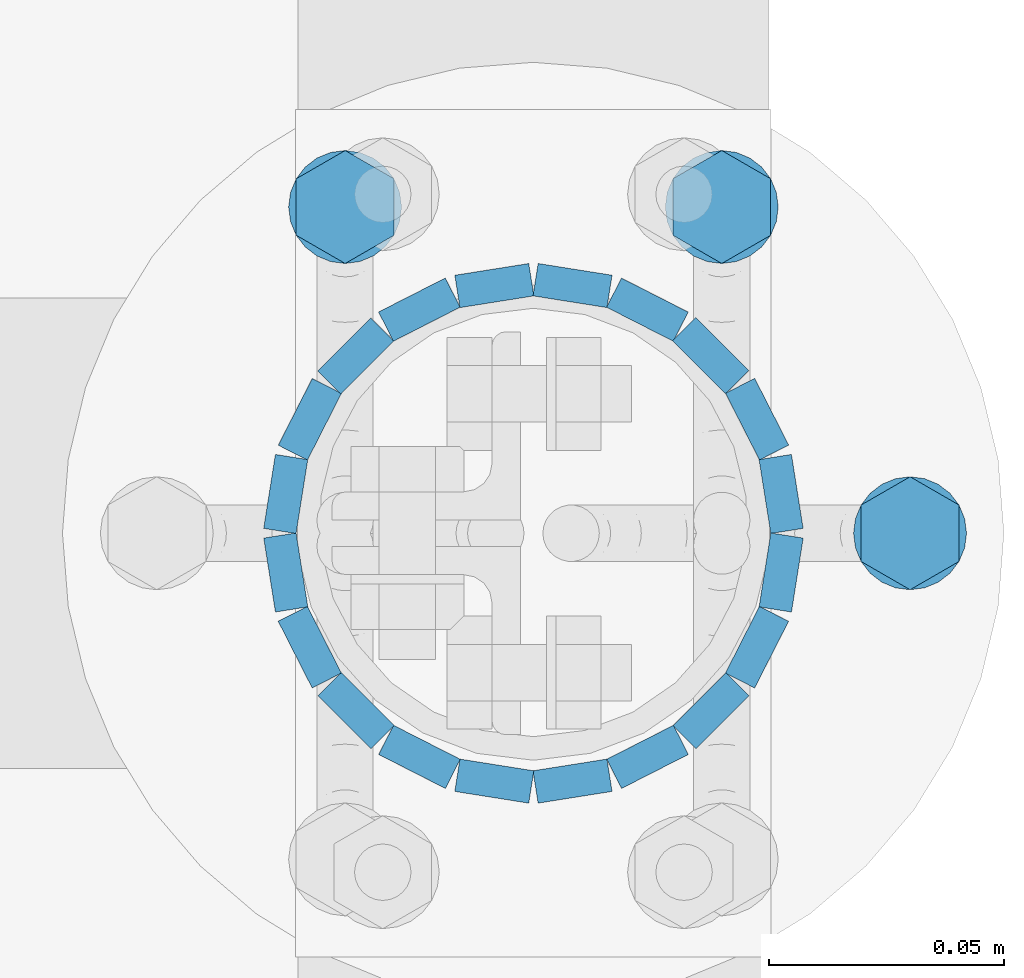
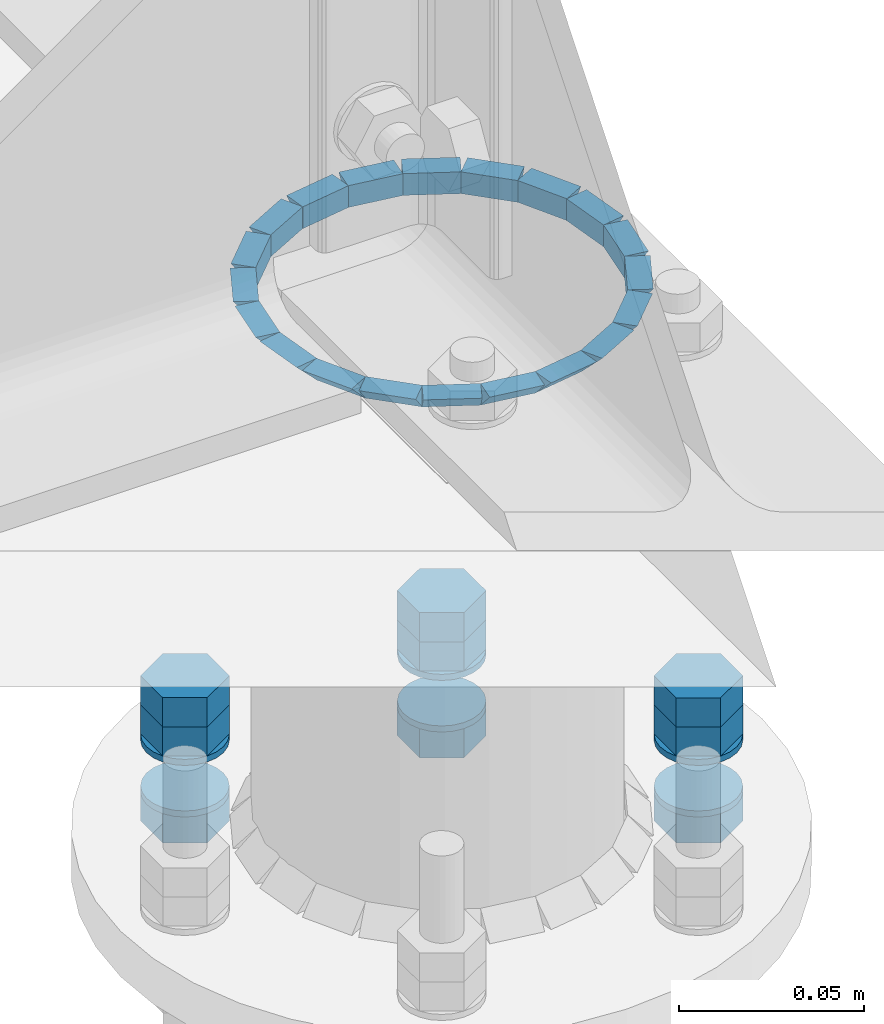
# One storey, part 64 of 84: 40 fasteners, 15 mechanical fasteners.
"""IFC4 building model written with IfcOpenShell, lengths in metres."""

from ifc_helpers import new_model, si_unit, frame, origin_with_axes, place, context, project, spatial, polyline, outline, extrude, type_object, element, save


model = new_model("IFC4")

# Units and contexts
model_context = context("Model", 3, precision=1e-05, world=origin_with_axes())
ifc_project = project(units=[si_unit("LENGTHUNIT", "METRE"), si_unit("AREAUNIT", "SQUARE_METRE"), si_unit("VOLUMEUNIT", "CUBIC_METRE"), si_unit("MASSUNIT", "GRAM", prefix="KILO"), si_unit("TIMEUNIT", "SECOND"), si_unit("PLANEANGLEUNIT", "RADIAN"), si_unit("SOLIDANGLEUNIT", "STERADIAN"), si_unit("THERMODYNAMICTEMPERATUREUNIT", "DEGREE_CELSIUS")], contexts=[model_context])

# Site, building, storey
placement_1 = place(None, origin_with_axes())
site = spatial("IfcSite", under=ifc_project, at=placement_1, Name="Italia", CompositionType="ELEMENT")
building = spatial("IfcBuilding", under=site, at=placement_1, Name="Tettoia", CompositionType="ELEMENT")
storey_placement = place(None, frame((0.0, 0.0, 4.199999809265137), z_axis=(0.0, 0.0, 1.0), x_axis=(1.0, 0.0, 0.0)))
storey = spatial("IfcBuildingStorey", under=building, at=storey_placement, Name="Storey 1", CompositionType="ELEMENT", Elevation=4.199999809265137)

# Mechanical fasteners
mechanical_fastener_type_1 = type_object("IfcMechanicalFastenerType", Name="Collegamento -010_0110", PredefinedType="BOLT")
placement_2 = place(placement_1, origin_with_axes())
mechanical_fastener_1_placement = place(placement_2, origin_with_axes())
element("IfcMechanicalFastener", 1, at=mechanical_fastener_1_placement, inside=storey, type_object=mechanical_fastener_type_1, Name="Collegamento -010_0110", NominalDiameter=0.0119991, context=model_context, shape_type="SweptSolid", body=[
    extrude(outline(polyline([(0.0, 0.0), (-0.0119991, 0.0), (-0.0179996, 0.0103922), (-0.0119991, 0.0207844), (0.0, 0.0207844), (0.00600052, 0.0103922), (0.0, 0.0)])), frame((11.3804, 9.976, 4.017), z_axis=(0.0, 0.0, 1.0), x_axis=(0.0, 1.0, 0.0)), (0.0, 0.0, 1.0), 0.00959969),
])
mechanical_fastener_type_2 = type_object("IfcMechanicalFastenerType", Name="Collegamento -010_0110", PredefinedType="BOLT")
mechanical_fastener_2_placement = place(placement_2, origin_with_axes())
element("IfcMechanicalFastener", 2, at=mechanical_fastener_2_placement, inside=storey, type_object=mechanical_fastener_type_2, Name="Collegamento -010_0110", NominalDiameter=0.0119991, context=model_context, shape_type="SweptSolid", body=[
    extrude(outline(polyline([(0.0, 0.0), (-0.0119991, 0.0), (-0.0179996, 0.0103922), (-0.0119991, 0.0207844), (0.0, 0.0207844), (0.00600052, 0.0103922), (0.0, 0.0)])), frame((11.3804, 9.976, 4.0266), z_axis=(0.0, 0.0, 1.0), x_axis=(0.0, 1.0, 0.0)), (0.0, 0.0, 1.0), 0.00960016),
])
mechanical_fastener_type_3 = type_object("IfcMechanicalFastenerType", Name="Collegamento -010_0110", PredefinedType="BOLT")
mechanical_fastener_3_placement = place(placement_2, origin_with_axes())
element("IfcMechanicalFastener", 3, at=mechanical_fastener_3_placement, inside=storey, type_object=mechanical_fastener_type_3, Name="Collegamento -010_0110", NominalDiameter=0.0119991, context=model_context, shape_type="SweptSolid", body=[
    extrude(outline(polyline([(0.0, 0.0), (-0.0119991, 0.0), (-0.0179996, 0.0103922), (-0.0119991, 0.0207844), (0.0, 0.0207844), (0.00600052, 0.0103922), (0.0, 0.0)])), frame((11.3804, 9.976, 3.9884), z_axis=(0.0, 0.0, 1.0), x_axis=(0.0, 1.0, 0.0)), (0.0, 0.0, 1.0), 0.00959992),
])
mechanical_fastener_type_4 = type_object("IfcMechanicalFastenerType", Name="Collegamento -010_0110", PredefinedType="BOLT")
mechanical_fastener_4_placement = place(placement_2, origin_with_axes())
element("IfcMechanicalFastener", 4, at=mechanical_fastener_4_placement, inside=storey, type_object=mechanical_fastener_type_4, Name="Collegamento -010_0110", NominalDiameter=0.024, context=model_context, shape_type="SweptSolid", body=[
    extrude(outline(polyline([(0.0, 0.0), (-0.000409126, -0.00310612), (-0.00160789, -0.00599957), (-0.00351524, -0.00848484), (-0.00600052, -0.0103922), (-0.00889397, -0.011591), (-0.0120001, -0.0120001), (-0.0151062, -0.011591), (-0.0179996, -0.0103922), (-0.0204849, -0.00848484), (-0.0223923, -0.00599957), (-0.023591, -0.00310612), (-0.0240002, 0.0), (-0.023591, 0.00310612), (-0.0223923, 0.00599957), (-0.0204849, 0.00848484), (-0.0179996, 0.0103922), (-0.0151062, 0.011591), (-0.0120001, 0.0120001), (-0.00889397, 0.011591), (-0.00600052, 0.0103922), (-0.00351524, 0.00848484), (-0.00160789, 0.00599957), (-0.000409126, 0.00310612), (0.0, 0.0)])), frame((11.37, 9.982, 4.015), z_axis=(0.0, 0.0, 1.0), x_axis=(0.0, 1.0, 0.0)), (0.0, 0.0, 1.0), 0.00200033),
])
mechanical_fastener_type_5 = type_object("IfcMechanicalFastenerType", Name="Collegamento -010_0110", PredefinedType="BOLT")
mechanical_fastener_5_placement = place(placement_2, origin_with_axes())
element("IfcMechanicalFastener", 5, at=mechanical_fastener_5_placement, inside=storey, type_object=mechanical_fastener_type_5, Name="Collegamento -010_0110", NominalDiameter=0.024, context=model_context, shape_type="SweptSolid", body=[
    extrude(outline(polyline([(0.0, 0.0), (-0.000409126, -0.00310612), (-0.00160789, -0.00599957), (-0.00351524, -0.00848484), (-0.00600052, -0.0103922), (-0.00889397, -0.011591), (-0.0120001, -0.0120001), (-0.0151062, -0.011591), (-0.0179996, -0.0103922), (-0.0204849, -0.00848484), (-0.0223923, -0.00599957), (-0.023591, -0.00310612), (-0.0240002, 0.0), (-0.023591, 0.00310612), (-0.0223923, 0.00599957), (-0.0204849, 0.00848484), (-0.0179996, 0.0103922), (-0.0151062, 0.011591), (-0.0120001, 0.0120001), (-0.00889397, 0.011591), (-0.00600052, 0.0103922), (-0.00351524, 0.00848484), (-0.00160789, 0.00599957), (-0.000409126, 0.00310612), (0.0, 0.0)])), frame((11.37, 9.982, 3.998), z_axis=(0.0, 0.0, 1.0), x_axis=(0.0, 1.0, 0.0)), (0.0, 0.0, 1.0), 0.00200009),
])
mechanical_fastener_type_6 = type_object("IfcMechanicalFastenerType", Name="Collegamento -010_0110", PredefinedType="BOLT")
mechanical_fastener_6_placement = place(placement_2, origin_with_axes())
element("IfcMechanicalFastener", 6, at=mechanical_fastener_6_placement, inside=storey, type_object=mechanical_fastener_type_6, Name="Collegamento -010_0110", NominalDiameter=0.0119997, context=model_context, shape_type="SweptSolid", body=[
    extrude(outline(polyline([(0.0, 0.0), (-0.0120001, 0.0), (-0.0179996, 0.0103922), (-0.0120001, 0.0207844), (0.0, 0.0207844), (0.00599957, 0.0103922), (0.0, 0.0)])), frame((11.3404, 10.0453, 4.017), z_axis=(0.0, 0.0, 1.0), x_axis=(0.0, 1.0, 0.0)), (0.0, 0.0, 1.0), 0.00959969),
])
mechanical_fastener_type_7 = type_object("IfcMechanicalFastenerType", Name="Collegamento -010_0110", PredefinedType="BOLT")
mechanical_fastener_7_placement = place(placement_2, origin_with_axes())
element("IfcMechanicalFastener", 7, at=mechanical_fastener_7_placement, inside=storey, type_object=mechanical_fastener_type_7, Name="Collegamento -010_0110", NominalDiameter=0.0119997, context=model_context, shape_type="SweptSolid", body=[
    extrude(outline(polyline([(0.0, 0.0), (-0.0120001, 0.0), (-0.0179996, 0.0103922), (-0.0120001, 0.0207844), (0.0, 0.0207844), (0.00599957, 0.0103922), (0.0, 0.0)])), frame((11.3404, 10.0453, 4.0266), z_axis=(0.0, 0.0, 1.0), x_axis=(0.0, 1.0, 0.0)), (0.0, 0.0, 1.0), 0.00960016),
])
mechanical_fastener_type_8 = type_object("IfcMechanicalFastenerType", Name="Collegamento -010_0110", PredefinedType="BOLT")
mechanical_fastener_8_placement = place(placement_2, origin_with_axes())
element("IfcMechanicalFastener", 8, at=mechanical_fastener_8_placement, inside=storey, type_object=mechanical_fastener_type_8, Name="Collegamento -010_0110", NominalDiameter=0.0119997, context=model_context, shape_type="SweptSolid", body=[
    extrude(outline(polyline([(0.0, 0.0), (-0.0120001, 0.0), (-0.0179996, 0.0103922), (-0.0120001, 0.0207844), (0.0, 0.0207844), (0.00599957, 0.0103922), (0.0, 0.0)])), frame((11.3404, 10.0453, 3.9884), z_axis=(0.0, 0.0, 1.0), x_axis=(0.0, 1.0, 0.0)), (0.0, 0.0, 1.0), 0.00959992),
])
mechanical_fastener_type_9 = type_object("IfcMechanicalFastenerType", Name="Collegamento -010_0110", PredefinedType="BOLT")
mechanical_fastener_9_placement = place(placement_2, origin_with_axes())
element("IfcMechanicalFastener", 9, at=mechanical_fastener_9_placement, inside=storey, type_object=mechanical_fastener_type_9, Name="Collegamento -010_0110", NominalDiameter=0.024, context=model_context, shape_type="SweptSolid", body=[
    extrude(outline(polyline([(0.0, 0.0), (-0.000409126, -0.00310612), (-0.00160789, -0.00599957), (-0.00351524, -0.00848484), (-0.00600052, -0.0103922), (-0.00889397, -0.011591), (-0.0120001, -0.0120001), (-0.0151062, -0.011591), (-0.0179996, -0.0103922), (-0.0204849, -0.00848484), (-0.0223923, -0.00599957), (-0.023591, -0.00310612), (-0.0240002, 0.0), (-0.023591, 0.00310612), (-0.0223923, 0.00599957), (-0.0204849, 0.00848484), (-0.0179996, 0.0103922), (-0.0151062, 0.011591), (-0.0120001, 0.0120001), (-0.00889397, 0.011591), (-0.00600052, 0.0103922), (-0.00351524, 0.00848484), (-0.00160789, 0.00599957), (-0.000409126, 0.00310612), (0.0, 0.0)])), frame((11.33, 10.0513, 4.015), z_axis=(0.0, 0.0, 1.0), x_axis=(0.0, 1.0, 0.0)), (0.0, 0.0, 1.0), 0.00200033),
])
mechanical_fastener_type_10 = type_object("IfcMechanicalFastenerType", Name="Collegamento -010_0110", PredefinedType="BOLT")
mechanical_fastener_10_placement = place(placement_2, origin_with_axes())
element("IfcMechanicalFastener", 10, at=mechanical_fastener_10_placement, inside=storey, type_object=mechanical_fastener_type_10, Name="Collegamento -010_0110", NominalDiameter=0.024, context=model_context, shape_type="SweptSolid", body=[
    extrude(outline(polyline([(0.0, 0.0), (-0.000409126, -0.00310612), (-0.00160789, -0.00599957), (-0.00351524, -0.00848484), (-0.00600052, -0.0103922), (-0.00889397, -0.011591), (-0.0120001, -0.0120001), (-0.0151062, -0.011591), (-0.0179996, -0.0103922), (-0.0204849, -0.00848484), (-0.0223923, -0.00599957), (-0.023591, -0.00310612), (-0.0240002, 0.0), (-0.023591, 0.00310612), (-0.0223923, 0.00599957), (-0.0204849, 0.00848484), (-0.0179996, 0.0103922), (-0.0151062, 0.011591), (-0.0120001, 0.0120001), (-0.00889397, 0.011591), (-0.00600052, 0.0103922), (-0.00351524, 0.00848484), (-0.00160789, 0.00599957), (-0.000409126, 0.00310612), (0.0, 0.0)])), frame((11.33, 10.0513, 3.998), z_axis=(0.0, 0.0, 1.0), x_axis=(0.0, 1.0, 0.0)), (0.0, 0.0, 1.0), 0.00200009),
])
mechanical_fastener_type_11 = type_object("IfcMechanicalFastenerType", Name="Collegamento -010_0110", PredefinedType="BOLT")
mechanical_fastener_11_placement = place(placement_2, origin_with_axes())
element("IfcMechanicalFastener", 11, at=mechanical_fastener_11_placement, inside=storey, type_object=mechanical_fastener_type_11, Name="Collegamento -010_0110", NominalDiameter=0.0119997, context=model_context, shape_type="SweptSolid", body=[
    extrude(outline(polyline([(0.0, 0.0), (-0.0120001, 0.0), (-0.0179996, 0.0103922), (-0.0120001, 0.0207844), (0.0, 0.0207844), (0.00599957, 0.0103922), (0.0, 0.0)])), frame((11.2604, 10.0453, 4.017), z_axis=(0.0, 0.0, 1.0), x_axis=(0.0, 1.0, 0.0)), (0.0, 0.0, 1.0), 0.00959969),
])
mechanical_fastener_type_12 = type_object("IfcMechanicalFastenerType", Name="Collegamento -010_0110", PredefinedType="BOLT")
mechanical_fastener_12_placement = place(placement_2, origin_with_axes())
element("IfcMechanicalFastener", 12, at=mechanical_fastener_12_placement, inside=storey, type_object=mechanical_fastener_type_12, Name="Collegamento -010_0110", NominalDiameter=0.0119997, context=model_context, shape_type="SweptSolid", body=[
    extrude(outline(polyline([(0.0, 0.0), (-0.0120001, 0.0), (-0.0179996, 0.0103922), (-0.0120001, 0.0207844), (0.0, 0.0207844), (0.00599957, 0.0103922), (0.0, 0.0)])), frame((11.2604, 10.0453, 4.0266), z_axis=(0.0, 0.0, 1.0), x_axis=(0.0, 1.0, 0.0)), (0.0, 0.0, 1.0), 0.00960016),
])
mechanical_fastener_type_13 = type_object("IfcMechanicalFastenerType", Name="Collegamento -010_0110", PredefinedType="BOLT")
mechanical_fastener_13_placement = place(placement_2, origin_with_axes())
element("IfcMechanicalFastener", 13, at=mechanical_fastener_13_placement, inside=storey, type_object=mechanical_fastener_type_13, Name="Collegamento -010_0110", NominalDiameter=0.0119997, context=model_context, shape_type="SweptSolid", body=[
    extrude(outline(polyline([(0.0, 0.0), (-0.0120001, 0.0), (-0.0179996, 0.0103922), (-0.0120001, 0.0207844), (0.0, 0.0207844), (0.00599957, 0.0103922), (0.0, 0.0)])), frame((11.2604, 10.0453, 3.9884), z_axis=(0.0, 0.0, 1.0), x_axis=(0.0, 1.0, 0.0)), (0.0, 0.0, 1.0), 0.00959992),
])
mechanical_fastener_type_14 = type_object("IfcMechanicalFastenerType", Name="Collegamento -010_0110", PredefinedType="BOLT")
mechanical_fastener_14_placement = place(placement_2, origin_with_axes())
element("IfcMechanicalFastener", 14, at=mechanical_fastener_14_placement, inside=storey, type_object=mechanical_fastener_type_14, Name="Collegamento -010_0110", NominalDiameter=0.024, context=model_context, shape_type="SweptSolid", body=[
    extrude(outline(polyline([(0.0, 0.0), (-0.000409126, -0.00310612), (-0.00160789, -0.00599957), (-0.00351524, -0.00848484), (-0.00600052, -0.0103922), (-0.00889397, -0.011591), (-0.0120001, -0.0120001), (-0.0151062, -0.011591), (-0.0179996, -0.0103922), (-0.0204849, -0.00848484), (-0.0223923, -0.00599957), (-0.023591, -0.00310612), (-0.0240002, 0.0), (-0.023591, 0.00310612), (-0.0223923, 0.00599957), (-0.0204849, 0.00848484), (-0.0179996, 0.0103922), (-0.0151062, 0.011591), (-0.0120001, 0.0120001), (-0.00889397, 0.011591), (-0.00600052, 0.0103922), (-0.00351524, 0.00848484), (-0.00160789, 0.00599957), (-0.000409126, 0.00310612), (0.0, 0.0)])), frame((11.25, 10.0513, 4.015), z_axis=(0.0, 0.0, 1.0), x_axis=(0.0, 1.0, 0.0)), (0.0, 0.0, 1.0), 0.00200033),
])
mechanical_fastener_type_15 = type_object("IfcMechanicalFastenerType", Name="Collegamento -010_0110", PredefinedType="BOLT")
mechanical_fastener_15_placement = place(placement_2, origin_with_axes())
element("IfcMechanicalFastener", 15, at=mechanical_fastener_15_placement, inside=storey, type_object=mechanical_fastener_type_15, Name="Collegamento -010_0110", NominalDiameter=0.024, context=model_context, shape_type="SweptSolid", body=[
    extrude(outline(polyline([(0.0, 0.0), (-0.000409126, -0.00310612), (-0.00160789, -0.00599957), (-0.00351524, -0.00848484), (-0.00600052, -0.0103922), (-0.00889397, -0.011591), (-0.0120001, -0.0120001), (-0.0151062, -0.011591), (-0.0179996, -0.0103922), (-0.0204849, -0.00848484), (-0.0223923, -0.00599957), (-0.023591, -0.00310612), (-0.0240002, 0.0), (-0.023591, 0.00310612), (-0.0223923, 0.00599957), (-0.0204849, 0.00848484), (-0.0179996, 0.0103922), (-0.0151062, 0.011591), (-0.0120001, 0.0120001), (-0.00889397, 0.011591), (-0.00600052, 0.0103922), (-0.00351524, 0.00848484), (-0.00160789, 0.00599957), (-0.000409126, 0.00310612), (0.0, 0.0)])), frame((11.25, 10.0513, 3.998), z_axis=(0.0, 0.0, 1.0), x_axis=(0.0, 1.0, 0.0)), (0.0, 0.0, 1.0), 0.00200009),
])

# Fasteners
fastener_type_1 = type_object("IfcFastenerType", Name="Collegamento 0110_-010", PredefinedType="WELD")
fastener_1_placement = place(placement_2, origin_with_axes())
element("IfcFastener", 16, at=fastener_1_placement, inside=storey, type_object=fastener_type_1, Name="Collegamento 0110_-010", context=model_context, shape_type="SweptSolid", body=[
    extrude(outline(polyline([(0.0, 0.0), (-0.00695801, -0.00717354), (-0.00695801, 0.0), (0.0, 0.0)])), frame((11.291, 10.0273, 4.19505), z_axis=(0.987678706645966, -0.156495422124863, 0.0), x_axis=(0.156495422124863, 0.987678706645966, 0.0)), (0.0, 0.0, 1.0), 0.0158991),
])
fastener_type_2 = type_object("IfcFastenerType", Name="Collegamento 0110_-010", PredefinedType="WELD")
fastener_2_placement = place(placement_2, origin_with_axes())
element("IfcFastener", 17, at=fastener_2_placement, inside=storey, type_object=fastener_type_2, Name="Collegamento 0110_-010", context=model_context, shape_type="SweptSolid", body=[
    extrude(outline(polyline([(0.0, 0.0), (-0.00695801, -0.00717354), (-0.00695801, 0.0), (0.0, 0.0)])), frame((11.3087, 10.0242, 4.19505), z_axis=(0.891030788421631, -0.453942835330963, 0.0), x_axis=(0.453942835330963, 0.891030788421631, 0.0)), (0.0, 0.0, 1.0), 0.0158994),
])
fastener_type_3 = type_object("IfcFastenerType", Name="Collegamento 0110_-010", PredefinedType="WELD")
fastener_3_placement = place(placement_2, origin_with_axes())
element("IfcFastener", 18, at=fastener_3_placement, inside=storey, type_object=fastener_type_3, Name="Collegamento 0110_-010", context=model_context, shape_type="SweptSolid", body=[
    extrude(outline(polyline([(0.0, 0.0), (-0.00695801, -0.00717354), (-0.00695801, 0.0), (0.0, 0.0)])), frame((11.3245, 10.0158, 4.19505), z_axis=(0.70710676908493, -0.70710676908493, 0.0), x_axis=(0.70710676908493, 0.70710676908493, 0.0)), (0.0, 0.0, 1.0), 0.0158998),
])
fastener_type_4 = type_object("IfcFastenerType", Name="Collegamento 0110_-010", PredefinedType="WELD")
fastener_4_placement = place(placement_2, origin_with_axes())
element("IfcFastener", 19, at=fastener_4_placement, inside=storey, type_object=fastener_type_4, Name="Collegamento 0110_-010", context=model_context, shape_type="SweptSolid", body=[
    extrude(outline(polyline([(0.0, 0.0), (-0.00695801, -0.00717354), (-0.00695801, 0.0), (0.0, 0.0)])), frame((11.337, 10.0029, 4.19505), z_axis=(0.453942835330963, -0.891030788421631, 0.0), x_axis=(0.891030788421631, 0.453942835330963, 0.0)), (0.0, 0.0, 1.0), 0.0158994),
])
fastener_type_5 = type_object("IfcFastenerType", Name="Collegamento 0110_-010", PredefinedType="WELD")
fastener_5_placement = place(placement_2, origin_with_axes())
element("IfcFastener", 20, at=fastener_5_placement, inside=storey, type_object=fastener_type_5, Name="Collegamento 0110_-010", context=model_context, shape_type="SweptSolid", body=[
    extrude(outline(polyline([(0.0, 0.0), (-0.00695801, -0.00717354), (-0.00695801, 0.0), (0.0, 0.0)])), frame((11.3448, 9.98674, 4.19505), z_axis=(0.156495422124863, -0.987678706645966, 0.0), x_axis=(0.987678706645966, 0.156495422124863, 0.0)), (0.0, 0.0, 1.0), 0.0158991),
])
fastener_type_6 = type_object("IfcFastenerType", Name="Collegamento 0110_-010", PredefinedType="WELD")
fastener_6_placement = place(placement_2, origin_with_axes())
element("IfcFastener", 21, at=fastener_6_placement, inside=storey, type_object=fastener_type_6, Name="Collegamento 0110_-010", context=model_context, shape_type="SweptSolid", body=[
    extrude(outline(polyline([(0.0, 0.0), (-0.00695992, -0.00717354), (-0.00695992, 0.0), (0.0, 0.0)])), frame((11.3473, 9.96897, 4.19505), z_axis=(-0.156495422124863, -0.987678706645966, 0.0), x_axis=(0.987678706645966, -0.156495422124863, 0.0)), (0.0, 0.0, 1.0), 0.0158991),
])
fastener_type_7 = type_object("IfcFastenerType", Name="Collegamento 0110_-010", PredefinedType="WELD")
fastener_7_placement = place(placement_2, origin_with_axes())
element("IfcFastener", 22, at=fastener_7_placement, inside=storey, type_object=fastener_type_7, Name="Collegamento 0110_-010", context=model_context, shape_type="SweptSolid", body=[
    extrude(outline(polyline([(0.0, 0.0), (-0.00695896, -0.00717354), (-0.00695896, 0.0), (0.0, 0.0)])), frame((11.3442, 9.9513, 4.19505), z_axis=(-0.453942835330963, -0.891030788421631, 0.0), x_axis=(0.891030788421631, -0.453942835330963, 0.0)), (0.0, 0.0, 1.0), 0.0158994),
])
fastener_type_8 = type_object("IfcFastenerType", Name="Collegamento 0110_-010", PredefinedType="WELD")
fastener_8_placement = place(placement_2, origin_with_axes())
element("IfcFastener", 23, at=fastener_8_placement, inside=storey, type_object=fastener_type_8, Name="Collegamento 0110_-010", context=model_context, shape_type="SweptSolid", body=[
    extrude(outline(polyline([(0.0, 0.0), (-0.00695801, -0.00717354), (-0.00695801, 0.0), (0.0, 0.0)])), frame((11.3358, 9.93547, 4.19505), z_axis=(-0.70710676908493, -0.70710676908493, 0.0), x_axis=(0.70710676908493, -0.70710676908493, 0.0)), (0.0, 0.0, 1.0), 0.0158998),
])
fastener_type_9 = type_object("IfcFastenerType", Name="Collegamento 0110_-010", PredefinedType="WELD")
fastener_9_placement = place(placement_2, origin_with_axes())
element("IfcFastener", 24, at=fastener_9_placement, inside=storey, type_object=fastener_type_9, Name="Collegamento 0110_-010", context=model_context, shape_type="SweptSolid", body=[
    extrude(outline(polyline([(0.0, 0.0), (-0.00695848, -0.00717354), (-0.00695848, 0.0), (0.0, 0.0)])), frame((11.3229, 9.92301, 4.19505), z_axis=(-0.891030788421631, -0.453942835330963, 0.0), x_axis=(0.453942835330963, -0.891030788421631, 0.0)), (0.0, 0.0, 1.0), 0.0158994),
])
fastener_type_10 = type_object("IfcFastenerType", Name="Collegamento 0110_-010", PredefinedType="WELD")
fastener_10_placement = place(placement_2, origin_with_axes())
element("IfcFastener", 25, at=fastener_10_placement, inside=storey, type_object=fastener_type_10, Name="Collegamento 0110_-010", context=model_context, shape_type="SweptSolid", body=[
    extrude(outline(polyline([(0.0, 0.0), (-0.00695705, -0.00717354), (-0.00695705, 0.0), (0.0, 0.0)])), frame((11.3067, 9.91516, 4.19505), z_axis=(-0.987678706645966, -0.156495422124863, 0.0), x_axis=(0.156495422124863, -0.987678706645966, 0.0)), (0.0, 0.0, 1.0), 0.0158991),
])
fastener_type_11 = type_object("IfcFastenerType", Name="Collegamento 0110_-010", PredefinedType="WELD")
fastener_11_placement = place(placement_2, origin_with_axes())
element("IfcFastener", 26, at=fastener_11_placement, inside=storey, type_object=fastener_type_11, Name="Collegamento 0110_-010", context=model_context, shape_type="SweptSolid", body=[
    extrude(outline(polyline([(0.0, 0.0), (-0.00695801, -0.00717354), (-0.00695801, 0.0), (0.0, 0.0)])), frame((11.289, 9.91267, 4.19505), z_axis=(-0.987678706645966, 0.156495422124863, 0.0), x_axis=(-0.156495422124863, -0.987678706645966, 0.0)), (0.0, 0.0, 1.0), 0.0158991),
])
fastener_type_12 = type_object("IfcFastenerType", Name="Collegamento 0110_-010", PredefinedType="WELD")
fastener_12_placement = place(placement_2, origin_with_axes())
element("IfcFastener", 27, at=fastener_12_placement, inside=storey, type_object=fastener_type_12, Name="Collegamento 0110_-010", context=model_context, shape_type="SweptSolid", body=[
    extrude(outline(polyline([(0.0, 0.0), (-0.00695705, -0.00717354), (-0.00695705, 0.0), (0.0, 0.0)])), frame((11.2713, 9.91579, 4.19505), z_axis=(-0.891030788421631, 0.453942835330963, 0.0), x_axis=(-0.453942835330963, -0.891030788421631, 0.0)), (0.0, 0.0, 1.0), 0.0158994),
])
fastener_type_13 = type_object("IfcFastenerType", Name="Collegamento 0110_-010", PredefinedType="WELD")
fastener_13_placement = place(placement_2, origin_with_axes())
element("IfcFastener", 28, at=fastener_13_placement, inside=storey, type_object=fastener_type_13, Name="Collegamento 0110_-010", context=model_context, shape_type="SweptSolid", body=[
    extrude(outline(polyline([(0.0, 0.0), (-0.00695801, -0.00717354), (-0.00695801, 0.0), (0.0, 0.0)])), frame((11.2555, 9.92422, 4.19505), z_axis=(-0.70710676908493, 0.70710676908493, 0.0), x_axis=(-0.70710676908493, -0.70710676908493, 0.0)), (0.0, 0.0, 1.0), 0.0158998),
])
fastener_type_14 = type_object("IfcFastenerType", Name="Collegamento 0110_-010", PredefinedType="WELD")
fastener_14_placement = place(placement_2, origin_with_axes())
element("IfcFastener", 29, at=fastener_14_placement, inside=storey, type_object=fastener_type_14, Name="Collegamento 0110_-010", context=model_context, shape_type="SweptSolid", body=[
    extrude(outline(polyline([(0.0, 0.0), (-0.00695992, -0.00717354), (-0.00695992, 0.0), (0.0, 0.0)])), frame((11.243, 9.93714, 4.19505), z_axis=(-0.453942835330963, 0.891030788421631, 0.0), x_axis=(-0.891030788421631, -0.453942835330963, 0.0)), (0.0, 0.0, 1.0), 0.0158994),
])
fastener_type_15 = type_object("IfcFastenerType", Name="Collegamento 0110_-010", PredefinedType="WELD")
fastener_15_placement = place(placement_2, origin_with_axes())
element("IfcFastener", 30, at=fastener_15_placement, inside=storey, type_object=fastener_type_15, Name="Collegamento 0110_-010", context=model_context, shape_type="SweptSolid", body=[
    extrude(outline(polyline([(0.0, 0.0), (-0.00695801, -0.00717354), (-0.00695801, 0.0), (0.0, 0.0)])), frame((11.2352, 9.95327, 4.19505), z_axis=(-0.156495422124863, 0.987678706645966, 0.0), x_axis=(-0.987678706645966, -0.156495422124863, 0.0)), (0.0, 0.0, 1.0), 0.0158991),
])
fastener_type_16 = type_object("IfcFastenerType", Name="Collegamento 0110_-010", PredefinedType="WELD")
fastener_16_placement = place(placement_2, origin_with_axes())
element("IfcFastener", 31, at=fastener_16_placement, inside=storey, type_object=fastener_type_16, Name="Collegamento 0110_-010", context=model_context, shape_type="SweptSolid", body=[
    extrude(outline(polyline([(0.0, 0.0), (-0.00695896, -0.00717354), (-0.00695896, 0.0), (0.0, 0.0)])), frame((11.2327, 9.97103, 4.19505), z_axis=(0.156495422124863, 0.987678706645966, 0.0), x_axis=(-0.987678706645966, 0.156495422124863, 0.0)), (0.0, 0.0, 1.0), 0.0158991),
])
fastener_type_17 = type_object("IfcFastenerType", Name="Collegamento 0110_-010", PredefinedType="WELD")
fastener_17_placement = place(placement_2, origin_with_axes())
element("IfcFastener", 32, at=fastener_17_placement, inside=storey, type_object=fastener_type_17, Name="Collegamento 0110_-010", context=model_context, shape_type="SweptSolid", body=[
    extrude(outline(polyline([(0.0, 0.0), (-0.00695896, -0.00717354), (-0.00695896, 0.0), (0.0, 0.0)])), frame((11.2358, 9.9887, 4.19505), z_axis=(0.453942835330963, 0.891030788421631, 0.0), x_axis=(-0.891030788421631, 0.453942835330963, 0.0)), (0.0, 0.0, 1.0), 0.0158994),
])
fastener_type_18 = type_object("IfcFastenerType", Name="Collegamento 0110_-010", PredefinedType="WELD")
fastener_18_placement = place(placement_2, origin_with_axes())
element("IfcFastener", 33, at=fastener_18_placement, inside=storey, type_object=fastener_type_18, Name="Collegamento 0110_-010", context=model_context, shape_type="SweptSolid", body=[
    extrude(outline(polyline([(0.0, 0.0), (-0.00695801, -0.00717354), (-0.00695801, 0.0), (0.0, 0.0)])), frame((11.2442, 10.0045, 4.19505), z_axis=(0.70710676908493, 0.70710676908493, 0.0), x_axis=(-0.70710676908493, 0.70710676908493, 0.0)), (0.0, 0.0, 1.0), 0.0158998),
])
fastener_type_19 = type_object("IfcFastenerType", Name="Collegamento 0110_-010", PredefinedType="WELD")
fastener_19_placement = place(placement_2, origin_with_axes())
element("IfcFastener", 34, at=fastener_19_placement, inside=storey, type_object=fastener_type_19, Name="Collegamento 0110_-010", context=model_context, shape_type="SweptSolid", body=[
    extrude(outline(polyline([(0.0, 0.0), (-0.00695944, -0.00717354), (-0.00695944, 0.0), (0.0, 0.0)])), frame((11.2571, 10.017, 4.19505), z_axis=(0.891030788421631, 0.453942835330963, 0.0), x_axis=(-0.453942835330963, 0.891030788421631, 0.0)), (0.0, 0.0, 1.0), 0.0158994),
])
fastener_type_20 = type_object("IfcFastenerType", Name="Collegamento 0110_-010", PredefinedType="WELD")
fastener_20_placement = place(placement_2, origin_with_axes())
element("IfcFastener", 35, at=fastener_20_placement, inside=storey, type_object=fastener_type_20, Name="Collegamento 0110_-010", context=model_context, shape_type="SweptSolid", body=[
    extrude(outline(polyline([(0.0, 0.0), (-0.00695705, -0.00717354), (-0.00695705, 0.0), (0.0, 0.0)])), frame((11.2733, 10.0248, 4.19505), z_axis=(0.987678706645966, 0.156495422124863, 0.0), x_axis=(-0.156495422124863, 0.987678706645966, 0.0)), (0.0, 0.0, 1.0), 0.0158991),
])
fastener_type_21 = type_object("IfcFastenerType", Name="Collegamento 0110_-010", PredefinedType="WELD")
fastener_21_placement = place(placement_2, origin_with_axes())
element("IfcFastener", 36, at=fastener_21_placement, inside=storey, type_object=fastener_type_21, Name="Collegamento 0110_-010", context=model_context, shape_type="SweptSolid", body=[
    extrude(outline(polyline([(0.0, 0.0), (-0.00695801, -0.00717354), (-0.00695801, 0.0), (0.0, 0.0)])), frame((11.291, 10.0273, 4.19505), z_axis=(0.987678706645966, -0.156495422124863, 0.0), x_axis=(0.156495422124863, 0.987678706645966, 0.0)), (0.0, 0.0, 1.0), 0.0158991),
])
fastener_type_22 = type_object("IfcFastenerType", Name="Collegamento 0110_-010", PredefinedType="WELD")
fastener_22_placement = place(placement_2, origin_with_axes())
element("IfcFastener", 37, at=fastener_22_placement, inside=storey, type_object=fastener_type_22, Name="Collegamento 0110_-010", context=model_context, shape_type="SweptSolid", body=[
    extrude(outline(polyline([(0.0, 0.0), (-0.00695801, -0.00717354), (-0.00695801, 0.0), (0.0, 0.0)])), frame((11.3087, 10.0242, 4.19505), z_axis=(0.891030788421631, -0.453942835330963, 0.0), x_axis=(0.453942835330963, 0.891030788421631, 0.0)), (0.0, 0.0, 1.0), 0.0158994),
])
fastener_type_23 = type_object("IfcFastenerType", Name="Collegamento 0110_-010", PredefinedType="WELD")
fastener_23_placement = place(placement_2, origin_with_axes())
element("IfcFastener", 38, at=fastener_23_placement, inside=storey, type_object=fastener_type_23, Name="Collegamento 0110_-010", context=model_context, shape_type="SweptSolid", body=[
    extrude(outline(polyline([(0.0, 0.0), (-0.00695801, -0.00717354), (-0.00695801, 0.0), (0.0, 0.0)])), frame((11.3245, 10.0158, 4.19505), z_axis=(0.70710676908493, -0.70710676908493, 0.0), x_axis=(0.70710676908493, 0.70710676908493, 0.0)), (0.0, 0.0, 1.0), 0.0158998),
])
fastener_type_24 = type_object("IfcFastenerType", Name="Collegamento 0110_-010", PredefinedType="WELD")
fastener_24_placement = place(placement_2, origin_with_axes())
element("IfcFastener", 39, at=fastener_24_placement, inside=storey, type_object=fastener_type_24, Name="Collegamento 0110_-010", context=model_context, shape_type="SweptSolid", body=[
    extrude(outline(polyline([(0.0, 0.0), (-0.00695801, -0.00717354), (-0.00695801, 0.0), (0.0, 0.0)])), frame((11.337, 10.0029, 4.19505), z_axis=(0.453942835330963, -0.891030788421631, 0.0), x_axis=(0.891030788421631, 0.453942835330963, 0.0)), (0.0, 0.0, 1.0), 0.0158994),
])
fastener_type_25 = type_object("IfcFastenerType", Name="Collegamento 0110_-010", PredefinedType="WELD")
fastener_25_placement = place(placement_2, origin_with_axes())
element("IfcFastener", 40, at=fastener_25_placement, inside=storey, type_object=fastener_type_25, Name="Collegamento 0110_-010", context=model_context, shape_type="SweptSolid", body=[
    extrude(outline(polyline([(0.0, 0.0), (-0.00695801, -0.00717354), (-0.00695801, 0.0), (0.0, 0.0)])), frame((11.3448, 9.98674, 4.19505), z_axis=(0.156495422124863, -0.987678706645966, 0.0), x_axis=(0.987678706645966, 0.156495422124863, 0.0)), (0.0, 0.0, 1.0), 0.0158991),
])
fastener_type_26 = type_object("IfcFastenerType", Name="Collegamento 0110_-010", PredefinedType="WELD")
fastener_26_placement = place(placement_2, origin_with_axes())
element("IfcFastener", 41, at=fastener_26_placement, inside=storey, type_object=fastener_type_26, Name="Collegamento 0110_-010", context=model_context, shape_type="SweptSolid", body=[
    extrude(outline(polyline([(0.0, 0.0), (-0.00695992, -0.00717354), (-0.00695992, 0.0), (0.0, 0.0)])), frame((11.3473, 9.96897, 4.19505), z_axis=(-0.156495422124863, -0.987678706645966, 0.0), x_axis=(0.987678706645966, -0.156495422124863, 0.0)), (0.0, 0.0, 1.0), 0.0158991),
])
fastener_type_27 = type_object("IfcFastenerType", Name="Collegamento 0110_-010", PredefinedType="WELD")
fastener_27_placement = place(placement_2, origin_with_axes())
element("IfcFastener", 42, at=fastener_27_placement, inside=storey, type_object=fastener_type_27, Name="Collegamento 0110_-010", context=model_context, shape_type="SweptSolid", body=[
    extrude(outline(polyline([(0.0, 0.0), (-0.00695896, -0.00717354), (-0.00695896, 0.0), (0.0, 0.0)])), frame((11.3442, 9.9513, 4.19505), z_axis=(-0.453942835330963, -0.891030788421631, 0.0), x_axis=(0.891030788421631, -0.453942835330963, 0.0)), (0.0, 0.0, 1.0), 0.0158994),
])
fastener_type_28 = type_object("IfcFastenerType", Name="Collegamento 0110_-010", PredefinedType="WELD")
fastener_28_placement = place(placement_2, origin_with_axes())
element("IfcFastener", 43, at=fastener_28_placement, inside=storey, type_object=fastener_type_28, Name="Collegamento 0110_-010", context=model_context, shape_type="SweptSolid", body=[
    extrude(outline(polyline([(0.0, 0.0), (-0.00695801, -0.00717354), (-0.00695801, 0.0), (0.0, 0.0)])), frame((11.3358, 9.93547, 4.19505), z_axis=(-0.70710676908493, -0.70710676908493, 0.0), x_axis=(0.70710676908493, -0.70710676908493, 0.0)), (0.0, 0.0, 1.0), 0.0158998),
])
fastener_type_29 = type_object("IfcFastenerType", Name="Collegamento 0110_-010", PredefinedType="WELD")
fastener_29_placement = place(placement_2, origin_with_axes())
element("IfcFastener", 44, at=fastener_29_placement, inside=storey, type_object=fastener_type_29, Name="Collegamento 0110_-010", context=model_context, shape_type="SweptSolid", body=[
    extrude(outline(polyline([(0.0, 0.0), (-0.00695848, -0.00717354), (-0.00695848, 0.0), (0.0, 0.0)])), frame((11.3229, 9.92301, 4.19505), z_axis=(-0.891030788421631, -0.453942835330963, 0.0), x_axis=(0.453942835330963, -0.891030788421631, 0.0)), (0.0, 0.0, 1.0), 0.0158994),
])
fastener_type_30 = type_object("IfcFastenerType", Name="Collegamento 0110_-010", PredefinedType="WELD")
fastener_30_placement = place(placement_2, origin_with_axes())
element("IfcFastener", 45, at=fastener_30_placement, inside=storey, type_object=fastener_type_30, Name="Collegamento 0110_-010", context=model_context, shape_type="SweptSolid", body=[
    extrude(outline(polyline([(0.0, 0.0), (-0.00695705, -0.00717354), (-0.00695705, 0.0), (0.0, 0.0)])), frame((11.3067, 9.91516, 4.19505), z_axis=(-0.987678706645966, -0.156495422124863, 0.0), x_axis=(0.156495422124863, -0.987678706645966, 0.0)), (0.0, 0.0, 1.0), 0.0158991),
])
fastener_type_31 = type_object("IfcFastenerType", Name="Collegamento 0110_-010", PredefinedType="WELD")
fastener_31_placement = place(placement_2, origin_with_axes())
element("IfcFastener", 46, at=fastener_31_placement, inside=storey, type_object=fastener_type_31, Name="Collegamento 0110_-010", context=model_context, shape_type="SweptSolid", body=[
    extrude(outline(polyline([(0.0, 0.0), (-0.00695801, -0.00717354), (-0.00695801, 0.0), (0.0, 0.0)])), frame((11.289, 9.91267, 4.19505), z_axis=(-0.987678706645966, 0.156495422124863, 0.0), x_axis=(-0.156495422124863, -0.987678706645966, 0.0)), (0.0, 0.0, 1.0), 0.0158991),
])
fastener_type_32 = type_object("IfcFastenerType", Name="Collegamento 0110_-010", PredefinedType="WELD")
fastener_32_placement = place(placement_2, origin_with_axes())
element("IfcFastener", 47, at=fastener_32_placement, inside=storey, type_object=fastener_type_32, Name="Collegamento 0110_-010", context=model_context, shape_type="SweptSolid", body=[
    extrude(outline(polyline([(0.0, 0.0), (-0.00695705, -0.00717354), (-0.00695705, 0.0), (0.0, 0.0)])), frame((11.2713, 9.91579, 4.19505), z_axis=(-0.891030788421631, 0.453942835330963, 0.0), x_axis=(-0.453942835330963, -0.891030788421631, 0.0)), (0.0, 0.0, 1.0), 0.0158994),
])
fastener_type_33 = type_object("IfcFastenerType", Name="Collegamento 0110_-010", PredefinedType="WELD")
fastener_33_placement = place(placement_2, origin_with_axes())
element("IfcFastener", 48, at=fastener_33_placement, inside=storey, type_object=fastener_type_33, Name="Collegamento 0110_-010", context=model_context, shape_type="SweptSolid", body=[
    extrude(outline(polyline([(0.0, 0.0), (-0.00695801, -0.00717354), (-0.00695801, 0.0), (0.0, 0.0)])), frame((11.2555, 9.92422, 4.19505), z_axis=(-0.70710676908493, 0.70710676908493, 0.0), x_axis=(-0.70710676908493, -0.70710676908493, 0.0)), (0.0, 0.0, 1.0), 0.0158998),
])
fastener_type_34 = type_object("IfcFastenerType", Name="Collegamento 0110_-010", PredefinedType="WELD")
fastener_34_placement = place(placement_2, origin_with_axes())
element("IfcFastener", 49, at=fastener_34_placement, inside=storey, type_object=fastener_type_34, Name="Collegamento 0110_-010", context=model_context, shape_type="SweptSolid", body=[
    extrude(outline(polyline([(0.0, 0.0), (-0.00695992, -0.00717354), (-0.00695992, 0.0), (0.0, 0.0)])), frame((11.243, 9.93714, 4.19505), z_axis=(-0.453942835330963, 0.891030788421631, 0.0), x_axis=(-0.891030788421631, -0.453942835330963, 0.0)), (0.0, 0.0, 1.0), 0.0158994),
])
fastener_type_35 = type_object("IfcFastenerType", Name="Collegamento 0110_-010", PredefinedType="WELD")
fastener_35_placement = place(placement_2, origin_with_axes())
element("IfcFastener", 50, at=fastener_35_placement, inside=storey, type_object=fastener_type_35, Name="Collegamento 0110_-010", context=model_context, shape_type="SweptSolid", body=[
    extrude(outline(polyline([(0.0, 0.0), (-0.00695801, -0.00717354), (-0.00695801, 0.0), (0.0, 0.0)])), frame((11.2352, 9.95327, 4.19505), z_axis=(-0.156495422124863, 0.987678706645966, 0.0), x_axis=(-0.987678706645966, -0.156495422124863, 0.0)), (0.0, 0.0, 1.0), 0.0158991),
])
fastener_type_36 = type_object("IfcFastenerType", Name="Collegamento 0110_-010", PredefinedType="WELD")
fastener_36_placement = place(placement_2, origin_with_axes())
element("IfcFastener", 51, at=fastener_36_placement, inside=storey, type_object=fastener_type_36, Name="Collegamento 0110_-010", context=model_context, shape_type="SweptSolid", body=[
    extrude(outline(polyline([(0.0, 0.0), (-0.00695896, -0.00717354), (-0.00695896, 0.0), (0.0, 0.0)])), frame((11.2327, 9.97103, 4.19505), z_axis=(0.156495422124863, 0.987678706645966, 0.0), x_axis=(-0.987678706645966, 0.156495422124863, 0.0)), (0.0, 0.0, 1.0), 0.0158991),
])
fastener_type_37 = type_object("IfcFastenerType", Name="Collegamento 0110_-010", PredefinedType="WELD")
fastener_37_placement = place(placement_2, origin_with_axes())
element("IfcFastener", 52, at=fastener_37_placement, inside=storey, type_object=fastener_type_37, Name="Collegamento 0110_-010", context=model_context, shape_type="SweptSolid", body=[
    extrude(outline(polyline([(0.0, 0.0), (-0.00695896, -0.00717354), (-0.00695896, 0.0), (0.0, 0.0)])), frame((11.2358, 9.9887, 4.19505), z_axis=(0.453942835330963, 0.891030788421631, 0.0), x_axis=(-0.891030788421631, 0.453942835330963, 0.0)), (0.0, 0.0, 1.0), 0.0158994),
])
fastener_type_38 = type_object("IfcFastenerType", Name="Collegamento 0110_-010", PredefinedType="WELD")
fastener_38_placement = place(placement_2, origin_with_axes())
element("IfcFastener", 53, at=fastener_38_placement, inside=storey, type_object=fastener_type_38, Name="Collegamento 0110_-010", context=model_context, shape_type="SweptSolid", body=[
    extrude(outline(polyline([(0.0, 0.0), (-0.00695801, -0.00717354), (-0.00695801, 0.0), (0.0, 0.0)])), frame((11.2442, 10.0045, 4.19505), z_axis=(0.70710676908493, 0.70710676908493, 0.0), x_axis=(-0.70710676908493, 0.70710676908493, 0.0)), (0.0, 0.0, 1.0), 0.0158998),
])
fastener_type_39 = type_object("IfcFastenerType", Name="Collegamento 0110_-010", PredefinedType="WELD")
fastener_39_placement = place(placement_2, origin_with_axes())
element("IfcFastener", 54, at=fastener_39_placement, inside=storey, type_object=fastener_type_39, Name="Collegamento 0110_-010", context=model_context, shape_type="SweptSolid", body=[
    extrude(outline(polyline([(0.0, 0.0), (-0.00695944, -0.00717354), (-0.00695944, 0.0), (0.0, 0.0)])), frame((11.2571, 10.017, 4.19505), z_axis=(0.891030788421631, 0.453942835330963, 0.0), x_axis=(-0.453942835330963, 0.891030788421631, 0.0)), (0.0, 0.0, 1.0), 0.0158994),
])
fastener_type_40 = type_object("IfcFastenerType", Name="Collegamento 0110_-010", PredefinedType="WELD")
fastener_40_placement = place(placement_2, origin_with_axes())
element("IfcFastener", 55, at=fastener_40_placement, inside=storey, type_object=fastener_type_40, Name="Collegamento 0110_-010", context=model_context, shape_type="SweptSolid", body=[
    extrude(outline(polyline([(0.0, 0.0), (-0.00695705, -0.00717354), (-0.00695705, 0.0), (0.0, 0.0)])), frame((11.2733, 10.0248, 4.19505), z_axis=(0.987678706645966, 0.156495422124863, 0.0), x_axis=(-0.156495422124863, 0.987678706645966, 0.0)), (0.0, 0.0, 1.0), 0.0158991),
])

save(model, "model.ifc")
